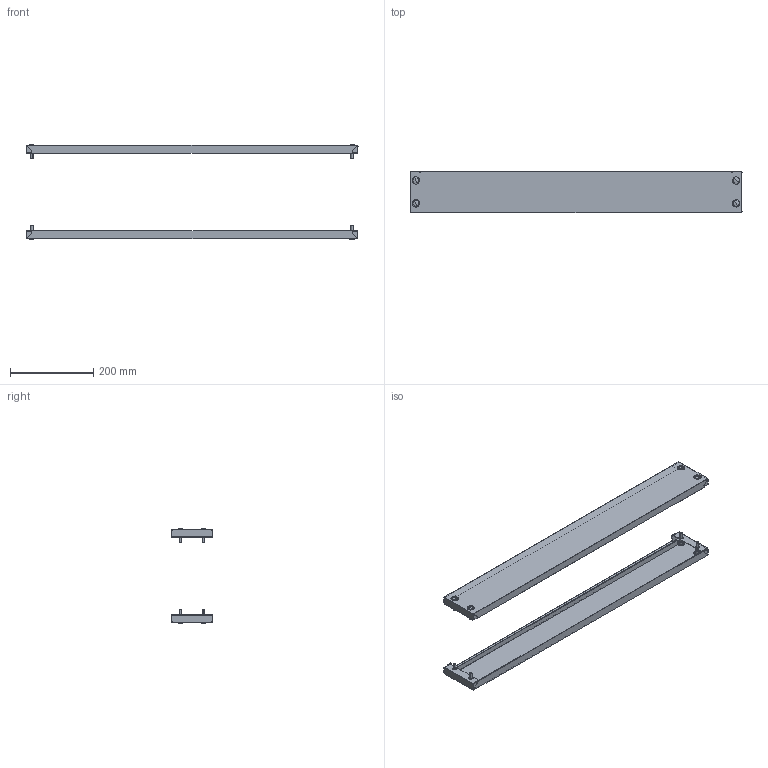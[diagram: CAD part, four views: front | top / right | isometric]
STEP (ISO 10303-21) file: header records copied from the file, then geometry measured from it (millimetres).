
FILE_DESCRIPTION (( 'STEP AP203' ), '1' );
FILE_NAME ('R5FZ8-250.STEP', '2025-06-18T08:38:41', ( '' ), ( '' ), 'SwSTEP 2.0', 'SolidWorks 2022', '' );
FILE_SCHEMA (( 'CONFIG_CONTROL_DESIGN' ));
Length unit declared in the file: millimetre
Products named in the file (5): R5FZ8-250; RB.1055.00.00.0 simple_-03 (800); Plug_11.5-13Д18ЧК_-00; 6 DIN 6798 A Zinc; M6x16 DIN 912 HX cl.4,8 Zinc_stright
Assembly tree (26 placements, depth 2):
  R5FZ8-250
    RB.1055.00.00.0 simple_-03 (800)  x2
    M6x16 DIN 912 HX cl.4,8 Zinc_stright  x8
    6 DIN 6798 A Zinc  x8
    Plug_11.5-13Д18ЧК_-00  x8
Bounding box: 799 x 100.05 x 228.5 mm (x, y, z)
Volume: 384268.8 mm3; surface area: 520303.7 mm2
Topology: 26 solids, 26 shells, 1196 faces, 3456 edges, 2112 vertices
Faces by surface type: plane 700, bspline 208, cylinder 128, cone 96, torus 48, sphere 16
Entity records: 9921 total; most frequent: CARTESIAN_POINT 2626, ORIENTED_EDGE 1352, DIRECTION 1188, EDGE_CURVE 676, VECTOR 448, LINE 448, VERTEX_POINT 444, AXIS2_PLACEMENT_3D 370
